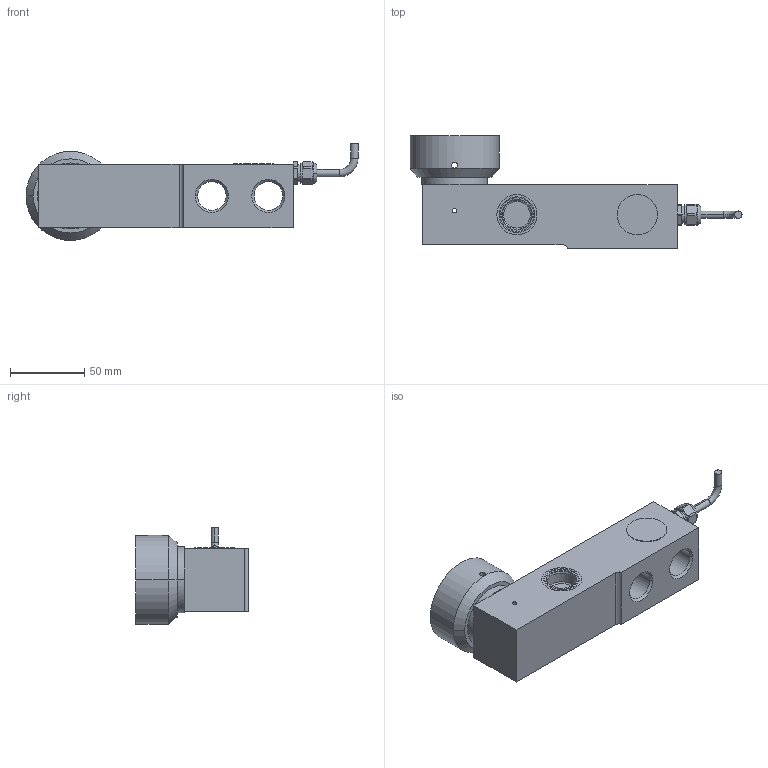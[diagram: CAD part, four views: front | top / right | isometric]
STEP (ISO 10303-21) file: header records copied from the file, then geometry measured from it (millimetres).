
FILE_DESCRIPTION((''),'2;1');
FILE_NAME('72208663-0745A-4400KG_SW0002','2014-07-15T',('wang-379'),(''),'PRO/ENGINEER BY PARAMETRIC TECHNOLOGY CORPORATION, 2013320','PRO/ENGINEER BY PARAMETRIC TECHNOLOGY CORPORATION, 2013320','');
FILE_SCHEMA(('CONFIG_CONTROL_DESIGN'));
Length unit declared in the file: millimetre
Products named in the file (1): 72208663-0745A-4400KG_SW0002
Bounding box: 223.75 x 75.94 x 65.34 mm (x, y, z)
Volume: 333006.2 mm3; surface area: 57005.1 mm2
Topology: 2 solids, 2 shells, 164 faces, 408 edges, 256 vertices
Faces by surface type: cylinder 61, plane 51, cone 30, torus 22
Entity records: 5430 total; most frequent: CARTESIAN_POINT 1374, DIRECTION 904, ORIENTED_EDGE 808, EDGE_CURVE 404, AXIS2_PLACEMENT_3D 376, VERTEX_POINT 256, CIRCLE 212, EDGE_LOOP 188
